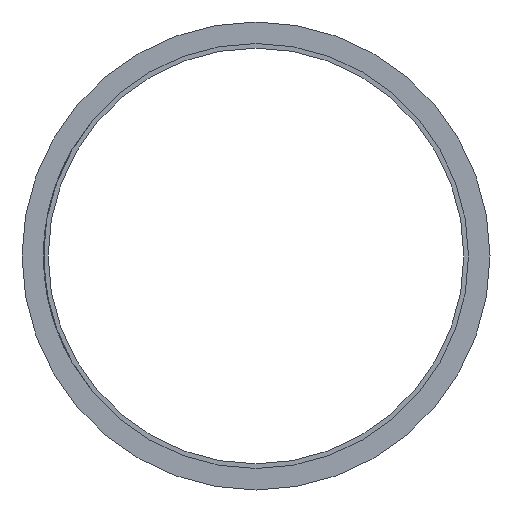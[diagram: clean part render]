
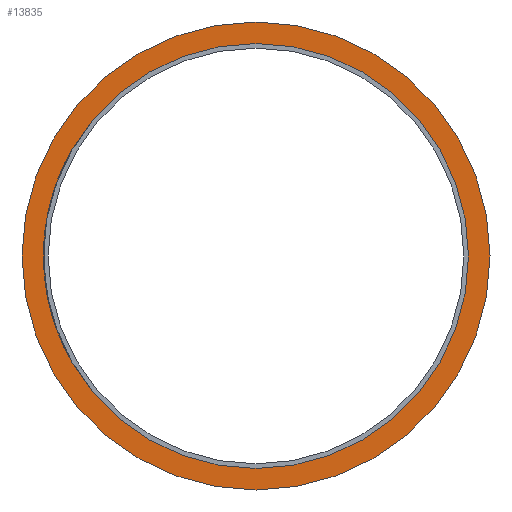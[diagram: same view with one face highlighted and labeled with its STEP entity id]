
A CAD part, left-side view. The second image highlights one B-rep face of the part: STEP entity #13835.
In plain terms, the highlighted planar face has unit normal (-1, 0, 0).
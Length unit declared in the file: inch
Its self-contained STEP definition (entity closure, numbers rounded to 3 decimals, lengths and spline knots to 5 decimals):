
#13793=CARTESIAN_POINT('',(0.125,3.165,0.0));
#13794=VERTEX_POINT('',#13793);
#13795=CARTESIAN_POINT('',(0.125,0.0,0.0));
#13796=DIRECTION('',(1.0,0.0,0.0));
#13797=DIRECTION('',(0.0,1.0,0.0));
#13798=AXIS2_PLACEMENT_3D('',#13795,#13796,#13797);
#13799=CIRCLE('',#13798,3.165);
#13800=EDGE_CURVE('',#13794,#13794,#13799,.T.);
#13816=CARTESIAN_POINT('',(0.125,3.325,0.0));
#13817=DIRECTION('',(-1.0,0.0,0.0));
#13818=DIRECTION('',(0.0,0.0,1.0));
#13819=AXIS2_PLACEMENT_3D('',#13816,#13817,#13818);
#13820=PLANE('',#13819);
#13821=CARTESIAN_POINT('',(0.125,3.485,0.0));
#13822=VERTEX_POINT('',#13821);
#13823=CARTESIAN_POINT('',(0.125,0.0,0.0));
#13824=DIRECTION('',(1.0,0.0,0.0));
#13825=DIRECTION('',(0.0,1.0,0.0));
#13826=AXIS2_PLACEMENT_3D('',#13823,#13824,#13825);
#13827=CIRCLE('',#13826,3.485);
#13828=EDGE_CURVE('',#13822,#13822,#13827,.T.);
#13829=ORIENTED_EDGE('',*,*,#13828,.F.);
#13830=EDGE_LOOP('',(#13829));
#13831=FACE_OUTER_BOUND('',#13830,.T.);
#13832=ORIENTED_EDGE('',*,*,#13800,.T.);
#13833=EDGE_LOOP('',(#13832));
#13834=FACE_BOUND('',#13833,.T.);
#13835=ADVANCED_FACE('',(#13831,#13834),#13820,.T.);
